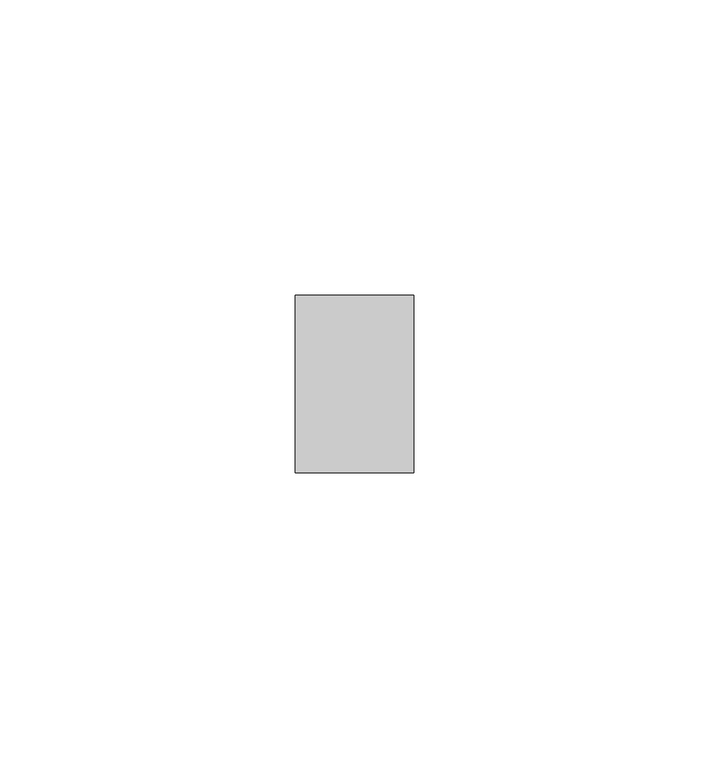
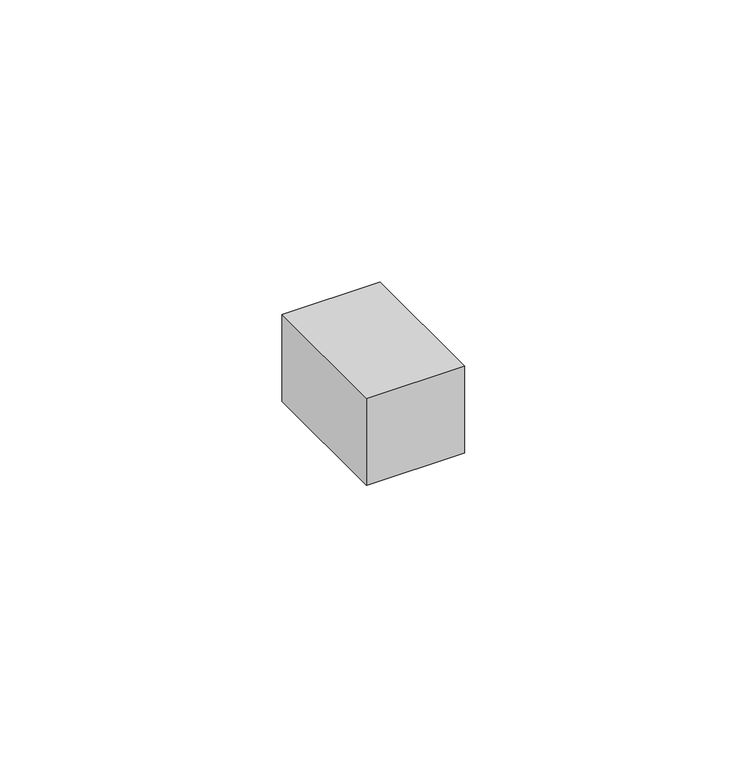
"""IFC4 building model written with IfcOpenShell, lengths in millimetres: member geometry, Прямоугольный импост : Квадрат 10 мм - Зазор между навесными плитами."""

import ifcopenshell
import ifcopenshell.guid

model = None  # the IFC model being written
_history = None  # IfcOwnerHistory: only IFC2X3 demands one
_inside = {}  # id of a spatial element -> (the spatial element, [elements in it])
_under = {}  # id of a project, library or spatial element -> (it, [spatial elements below it])
_declared = {}  # id of a project -> (the project, [libraries it declares])
_typed = {}  # id of a type object -> (the type object, [elements of that type])
_made_of = {}  # id of a material, layer set ... -> (it, [elements and type objects made of it])


def new_model(schema):
    """Start an empty IFC model of exactly this schema.

    Asked for "IFC4X3", IfcOpenShell would pick the latest addendum, in which some entities
    have other attributes; the version numbers below select the first issue.
    IFC2X3 requires an IfcOwnerHistory on every rooted entity: one is made here for all.
    """
    global model, _history
    if schema == "IFC4X3":
        model = ifcopenshell.file(schema_version=(4, 3, 0, 0))
    else:
        model = ifcopenshell.file(schema=schema)
    _inside.clear()
    _under.clear()
    _declared.clear()
    _typed.clear()
    _made_of.clear()
    _history = None
    if model.schema == "IFC2X3":
        org = make("IfcOrganization", Name="unknown")
        user = make(
            "IfcPersonAndOrganization",
            ThePerson=make("IfcPerson", FamilyName="unknown"),
            TheOrganization=org,
        )
        app = make(
            "IfcApplication",
            ApplicationDeveloper=org,
            Version="unknown",
            ApplicationFullName="unknown",
            ApplicationIdentifier="unknown",
        )
        _history = make(
            "IfcOwnerHistory",
            OwningUser=user,
            OwningApplication=app,
            ChangeAction="ADDED",
            CreationDate=0,
        )
    return model


def make(cls, **values):
    """One entity of the class cls with the attributes given. An attribute that is None is left unset."""
    return model.create_entity(
        cls, **{name: value for name, value in values.items() if value is not None}
    )


def rooted(cls, **values):
    """An entity with a GlobalId (a new one), such as an element, a storey or a relation."""
    return make(cls, GlobalId=ifcopenshell.guid.new(), OwnerHistory=_history, **values)


def si_unit(unit_type, name, prefix=None):
    """IfcSIUnit, for example si_unit("LENGTHUNIT", "METRE", prefix="MILLI")."""
    return make("IfcSIUnit", UnitType=unit_type, Prefix=prefix, Name=name)


def assignment(units):
    """IfcUnitAssignment: the units of a project."""
    return None if units is None else make("IfcUnitAssignment", Units=units)


def point(xyz):
    """IfcCartesianPoint."""
    return None if xyz is None else make("IfcCartesianPoint", Coordinates=xyz)


def direction(xyz):
    """IfcDirection."""
    return None if xyz is None else make("IfcDirection", DirectionRatios=xyz)


def frame(location, z_axis=None, x_axis=None):
    """IfcAxis2Placement3D, a coordinate frame: its origin and axes. An axis left out is left unset."""
    return make(
        "IfcAxis2Placement3D",
        Location=point(location),
        Axis=direction(z_axis),
        RefDirection=direction(x_axis),
    )


def origin():
    """The frame at (0, 0, 0) with its axes left unset."""
    return frame((0.0, 0.0, 0.0))


def place(relative_to, where):
    """IfcLocalPlacement: puts the frame where relative to a parent placement (None: the world)."""
    return make(
        "IfcLocalPlacement", PlacementRelTo=relative_to, RelativePlacement=where
    )


def context(
    kind, dimensions, precision=None, world=None, true_north=None, identifier=None
):
    """IfcGeometricRepresentationContext, for example the 3D "Model" context."""
    return make(
        "IfcGeometricRepresentationContext",
        ContextIdentifier=identifier,
        ContextType=kind,
        CoordinateSpaceDimension=dimensions,
        Precision=precision,
        WorldCoordinateSystem=world,
        TrueNorth=true_north,
    )


def project(units=None, contexts=None):
    """IfcProject with its units and contexts."""
    return rooted(
        "IfcProject",
        Name="project",
        RepresentationContexts=contexts,
        UnitsInContext=assignment(units),
    )


def spatial(cls, under=None, at=None, **own):
    """A site, building, storey or space (cls), placed at a placement, below another one or the project."""
    s = rooted(cls, ObjectPlacement=at, **own)
    if under is not None:
        _under.setdefault(under.id(), (under, []))[1].append(s)
    return s


def polyline(points):
    """IfcPolyline through the points."""
    return make("IfcPolyline", Points=[point(p) for p in points])


def outline(outer, holes=None, kind="AREA"):
    """IfcArbitraryClosedProfileDef: a profile drawn as a closed curve; with holes, ...WithVoids."""
    if holes is None:
        return make("IfcArbitraryClosedProfileDef", ProfileType=kind, OuterCurve=outer)
    return make(
        "IfcArbitraryProfileDefWithVoids",
        ProfileType=kind,
        OuterCurve=outer,
        InnerCurves=holes,
    )


def extrude(swept, where, along, depth):
    """IfcExtrudedAreaSolid: the profile swept, set in the frame where, extruded along a direction by depth."""
    return make(
        "IfcExtrudedAreaSolid",
        SweptArea=swept,
        Position=where,
        ExtrudedDirection=direction(along),
        Depth=depth,
    )


def shape(context_of_items, identifier, shape_type, items):
    """IfcShapeRepresentation: the items that make up one representation, for example the "Body"."""
    return make(
        "IfcShapeRepresentation",
        ContextOfItems=context_of_items,
        RepresentationIdentifier=identifier,
        RepresentationType=shape_type,
        Items=items,
    )


def source(mapping_origin, context_of_items, identifier, shape_type, items):
    """IfcRepresentationMap: a shape defined once, which mapped items show again and again."""
    return make(
        "IfcRepresentationMap",
        MappingOrigin=mapping_origin,
        MappedRepresentation=shape(context_of_items, identifier, shape_type, items),
    )


def transform(
    local_origin,
    x_axis=None,
    y_axis=None,
    z_axis=None,
    scale=None,
    scale2=None,
    scale3=None,
    uniform=True,
):
    """IfcCartesianTransformationOperator3D, or its non-uniform kind. x_axis, y_axis, z_axis: its Axis1, 2, 3."""
    if uniform:
        return make(
            "IfcCartesianTransformationOperator3D",
            Axis1=direction(x_axis),
            Axis2=direction(y_axis),
            LocalOrigin=point(local_origin),
            Scale=scale,
            Axis3=direction(z_axis),
        )
    return make(
        "IfcCartesianTransformationOperator3DnonUniform",
        Axis1=direction(x_axis),
        Axis2=direction(y_axis),
        LocalOrigin=point(local_origin),
        Scale=scale,
        Axis3=direction(z_axis),
        Scale2=scale2,
        Scale3=scale3,
    )


def mapped(mapping_source, mapping_target):
    """IfcMappedItem: shows the shape of a source again, moved by a transform."""
    return make(
        "IfcMappedItem", MappingSource=mapping_source, MappingTarget=mapping_target
    )


def made_of(thing, what):
    """Note that an element or type object is made of a material, layer set ...; save() writes the relation."""
    if what is not None:
        _made_of.setdefault(what.id(), (what, []))[1].append(thing)
    return thing


def element(
    cls,
    number,
    at=None,
    inside=None,
    cuts=None,
    type_object=None,
    material=None,
    context=None,
    identifier="Body",
    shape_type=None,
    held_by="IfcProductDefinitionShape",
    body=None,
    shapes=None,
    **own,
):
    """One element of the class cls, such as IfcWall. Its Tag is "e" and its number.

    at: its placement. inside: the storey or other place that contains it. cuts: it is an
    opening in that element (IfcRelVoidsElement). A single representation is given by context,
    identifier, shape_type and body (its items); several are given by shapes. held_by: the class
    of the entity that holds the representations. save() writes the other relations.
    """
    e = rooted(cls, Tag="e%d" % number, ObjectPlacement=at, **own)
    if body is not None:
        shapes = [shape(context, identifier, shape_type, body)]
    if shapes is not None:
        e.Representation = make(held_by, Representations=shapes)
    if inside is not None:
        _inside.setdefault(inside.id(), (inside, []))[1].append(e)
    if cuts is not None:
        rooted(
            "IfcRelVoidsElement", RelatingBuildingElement=cuts, RelatedOpeningElement=e
        )
    if type_object is not None:
        _typed.setdefault(type_object.id(), (type_object, []))[1].append(e)
    return made_of(e, material)


def aggregate(whole, parts):
    """IfcRelAggregates: a whole, such as a stair, and the parts it consists of."""
    return rooted("IfcRelAggregates", RelatingObject=whole, RelatedObjects=parts)


def save(model, path):
    """Write the relations noted so far, then the file.

    IfcRelAggregates (storeys below a building ...), IfcRelContainedInSpatialStructure (elements
    in a storey), IfcRelDefinesByType, IfcRelAssociatesMaterial and IfcRelDeclares: one each for
    every whole, place, type object, material and project.
    """
    for whole, parts in _under.values():
        aggregate(whole, parts)
    for where, things in _inside.values():
        rooted(
            "IfcRelContainedInSpatialStructure",
            RelatedElements=things,
            RelatingStructure=where,
        )
    for kind, things in _typed.values():
        rooted("IfcRelDefinesByType", RelatedObjects=things, RelatingType=kind)
    for what, things in _made_of.values():
        rooted("IfcRelAssociatesMaterial", RelatedObjects=things, RelatingMaterial=what)
    for by, libraries in _declared.values():
        rooted("IfcRelDeclares", RelatingContext=by, RelatedDefinitions=libraries)
    model.write(path)


def member_2d6c5b6d(model_context):
    return source(origin(), model_context, "Body", "SweptSolid", [
        extrude(outline(polyline([(0.0, 15.0), (0.0, -15.0), (-20.0, -15.0), (-20.0, 15.0), (0.0, 15.0)])), frame((0.0, 0.0, -18.7822578), z_axis=(0.0, 0.0, 1.0), x_axis=(1.0, 0.0, 0.0)), (0.0, 0.0, 1.0), 18.7822578),
    ])


if __name__ == "__main__":
    model = new_model("IFC4")
    model_context = context("Model", 3, world=origin())
    ifc_project = project(units=[si_unit("LENGTHUNIT", "METRE", prefix="MILLI")], contexts=[model_context])
    site = spatial("IfcSite", under=ifc_project)
    building = spatial("IfcBuilding", under=site)
    placement = place(None, origin())
    member_shape = member_2d6c5b6d(model_context)
    element("IfcMember", 1, ObjectType="Прямоугольный импост : Квадрат 10 мм - Зазор между навесными плитами", at=placement, inside=building, context=model_context, shape_type="MappedRepresentation", body=[
        mapped(member_shape, transform((0.0, 0.0, 0.0), x_axis=(1.0, 0.0, 0.0), y_axis=(0.0, 1.0, 0.0), z_axis=(0.0, 0.0, 1.0))),
    ])
    save(model, "model.ifc")
